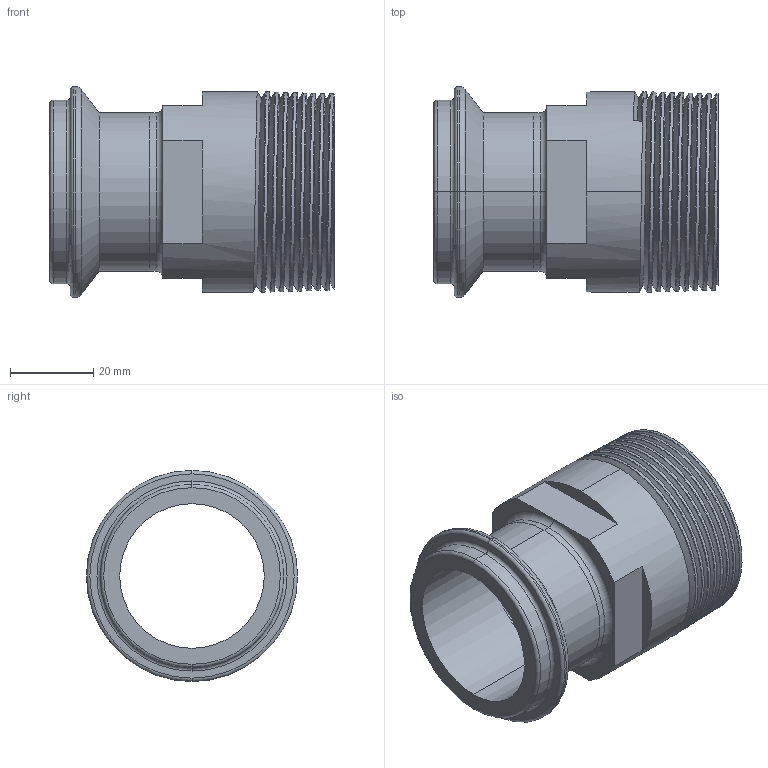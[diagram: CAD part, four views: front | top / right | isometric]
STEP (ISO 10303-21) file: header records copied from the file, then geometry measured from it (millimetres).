
FILE_DESCRIPTION (( 'STEP AP203' ), '1' );
FILE_NAME ('E21I-14I 1.5.STEP', '2021-10-26T18:24:03', ( '' ), ( '' ), 'SwSTEP 2.0', 'SolidWorks 2021', '' );
FILE_SCHEMA (( 'CONFIG_CONTROL_DESIGN' ));
Length unit declared in the file: inch
Products named in the file (3): E14WI1.5; E21I-14I 1.5; 19WBF1.5
Assembly tree (2 placements, depth 2):
  E21I-14I 1.5
    19WBF1.5
    E14WI1.5
Bounding box: 68.45 x 50.8 x 50.8 mm (x, y, z)
Volume: 41832.2 mm3; surface area: 24279.5 mm2
Topology: 2 solids, 2 shells, 64 faces, 157 edges, 99 vertices
Faces by surface type: cone 21, cylinder 15, plane 15, torus 10, bspline 3
Entity records: 8313 total; most frequent: CARTESIAN_POINT 6535, ORIENTED_EDGE 314, DIRECTION 303, EDGE_CURVE 157, AXIS2_PLACEMENT_3D 125, VERTEX_POINT 99, EDGE_LOOP 70, FACE_OUTER_BOUND 64
